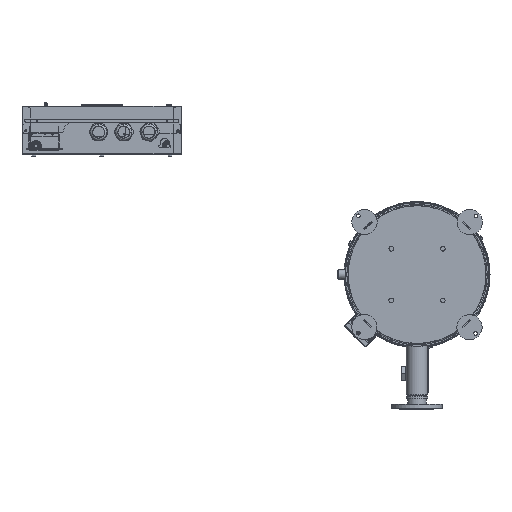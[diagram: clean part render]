
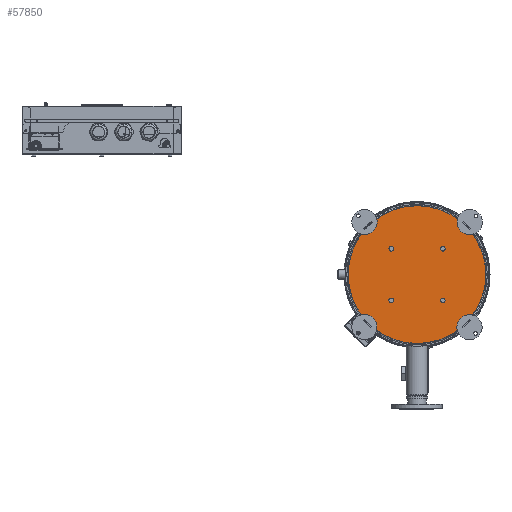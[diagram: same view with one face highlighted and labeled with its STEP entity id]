
A CAD part, front view. The second image highlights one B-rep face of the part: STEP entity #57850.
In plain terms, the highlighted planar face has unit normal (0, -1, 0).
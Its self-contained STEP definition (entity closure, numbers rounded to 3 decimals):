
#1249=FACE_BOUND('',#17203,.T.);
#1250=FACE_BOUND('',#17204,.T.);
#1251=FACE_BOUND('',#17205,.T.);
#1252=FACE_BOUND('',#17206,.T.);
#2188=PLANE('',#61982);
#5234=LINE('',#91811,#9835);
#5235=LINE('',#91812,#9836);
#9835=VECTOR('',#71227,10.);
#9836=VECTOR('',#71228,10.);
#14321=FACE_OUTER_BOUND('',#17202,.T.);
#17202=EDGE_LOOP('',(#42999,#43000,#43001));
#17203=EDGE_LOOP('',(#43002));
#17204=EDGE_LOOP('',(#43003));
#17205=EDGE_LOOP('',(#43004));
#17206=EDGE_LOOP('',(#43005));
#21042=CIRCLE('',#61962,245.5);
#21050=CIRCLE('',#61975,8.25);
#21051=CIRCLE('',#61977,8.25);
#21052=CIRCLE('',#61979,8.25);
#21053=CIRCLE('',#61981,8.25);
#25191=VERTEX_POINT('',#91723);
#25192=VERTEX_POINT('',#91725);
#25204=VERTEX_POINT('',#91794);
#25205=VERTEX_POINT('',#91798);
#25206=VERTEX_POINT('',#91802);
#25207=VERTEX_POINT('',#91806);
#25208=VERTEX_POINT('',#91810);
#32203=EDGE_CURVE('',#25192,#25191,#21042,.T.);
#32220=EDGE_CURVE('',#25204,#25204,#21050,.T.);
#32222=EDGE_CURVE('',#25205,#25205,#21051,.T.);
#32224=EDGE_CURVE('',#25206,#25206,#21052,.T.);
#32226=EDGE_CURVE('',#25207,#25207,#21053,.T.);
#32227=EDGE_CURVE('',#25191,#25208,#5234,.T.);
#32228=EDGE_CURVE('',#25208,#25192,#5235,.T.);
#42999=ORIENTED_EDGE('',*,*,#32227,.T.);
#43000=ORIENTED_EDGE('',*,*,#32228,.T.);
#43001=ORIENTED_EDGE('',*,*,#32203,.T.);
#43002=ORIENTED_EDGE('',*,*,#32226,.T.);
#43003=ORIENTED_EDGE('',*,*,#32224,.T.);
#43004=ORIENTED_EDGE('',*,*,#32222,.T.);
#43005=ORIENTED_EDGE('',*,*,#32220,.T.);
#57850=ADVANCED_FACE('',(#14321,#1249,#1250,#1251,#1252),#2188,.T.);
#61962=AXIS2_PLACEMENT_3D('',#91726,#71175,#71176);
#61975=AXIS2_PLACEMENT_3D('',#91796,#71208,#71209);
#61977=AXIS2_PLACEMENT_3D('',#91800,#71213,#71214);
#61979=AXIS2_PLACEMENT_3D('',#91804,#71218,#71219);
#61981=AXIS2_PLACEMENT_3D('',#91808,#71223,#71224);
#61982=AXIS2_PLACEMENT_3D('',#91809,#71225,#71226);
#71175=DIRECTION('center_axis',(0.,-1.,0.));
#71176=DIRECTION('ref_axis',(-1.,0.,0.001));
#71208=DIRECTION('center_axis',(0.,1.,0.));
#71209=DIRECTION('ref_axis',(-0.001,0.,
-1.));
#71213=DIRECTION('center_axis',(0.,1.,0.));
#71214=DIRECTION('ref_axis',(1.,0.,-0.001));
#71218=DIRECTION('center_axis',(0.,1.,0.));
#71219=DIRECTION('ref_axis',(0.001,0.,
1.));
#71223=DIRECTION('center_axis',(0.,1.,0.));
#71224=DIRECTION('ref_axis',(-1.,0.,0.001));
#71225=DIRECTION('center_axis',(0.,-1.,0.));
#71226=DIRECTION('ref_axis',(-1.,0.,0.001));
#71227=DIRECTION('',(-0.706,0.,0.708));
#71228=DIRECTION('',(0.708,0.,0.706));
#91723=CARTESIAN_POINT('',(-5146.931,-6079.902,-527.808));
#91725=CARTESIAN_POINT('',(-5146.925,-6079.902,-521.844));
#91726=CARTESIAN_POINT('Origin',(-5392.41,-6079.902,-524.575));
#91794=CARTESIAN_POINT('',(-5484.231,-6079.902,-424.307));
#91796=CARTESIAN_POINT('Origin',(-5484.24,-6079.902,-432.557));
#91798=CARTESIAN_POINT('',(-5492.678,-6079.902,-616.396));
#91800=CARTESIAN_POINT('Origin',(-5484.428,-6079.902,-616.404));
#91802=CARTESIAN_POINT('',(-5300.589,-6079.902,-624.843));
#91804=CARTESIAN_POINT('Origin',(-5300.58,-6079.902,-616.593));
#91806=CARTESIAN_POINT('',(-5292.142,-6079.902,-432.753));
#91808=CARTESIAN_POINT('Origin',(-5300.392,-6079.902,-432.745));
#91809=CARTESIAN_POINT('Origin',(-5392.41,-6079.902,-524.575));
#91810=CARTESIAN_POINT('',(-5149.91,-6079.902,-524.823));
#91811=CARTESIAN_POINT('',(-5208.984,-6079.902,-465.628));
#91812=CARTESIAN_POINT('',(-5210.597,-6079.902,-585.386));
